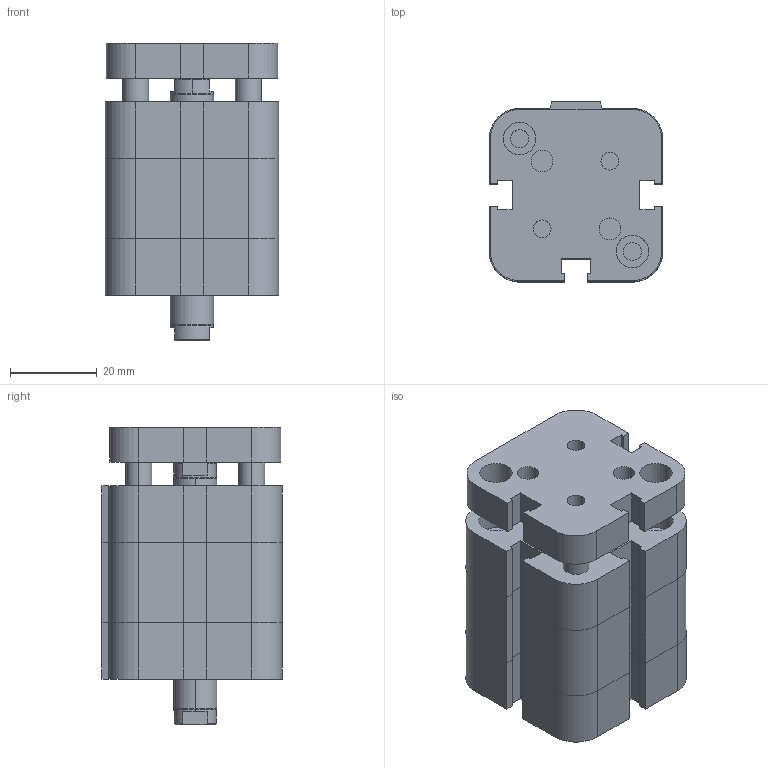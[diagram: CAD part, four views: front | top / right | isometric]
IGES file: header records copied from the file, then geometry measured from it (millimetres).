
Global section: file name: No Iges File Name specified; native system: Autodesk Inventor 2009; preprocessor: AutoDesk Inventor Iges Exporter R2009; author: maffial1; date: 20090420.202017; units: millimetre
Bounding box: 40 x 41.5 x 68.5 mm (x, y, z)
Volume: 74714.1 mm3; surface area: 23237.4 mm2
Topology: 2 solids, 2 shells, 241 faces, 570 edges, 354 vertices
Faces by surface type: plane 135, bspline 72, cylinder 26, cone 8
